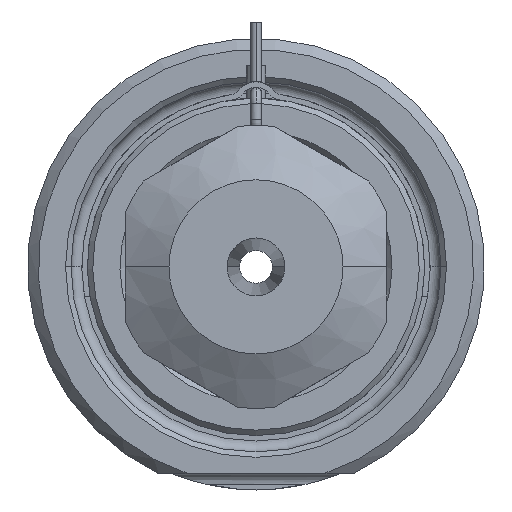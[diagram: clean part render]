
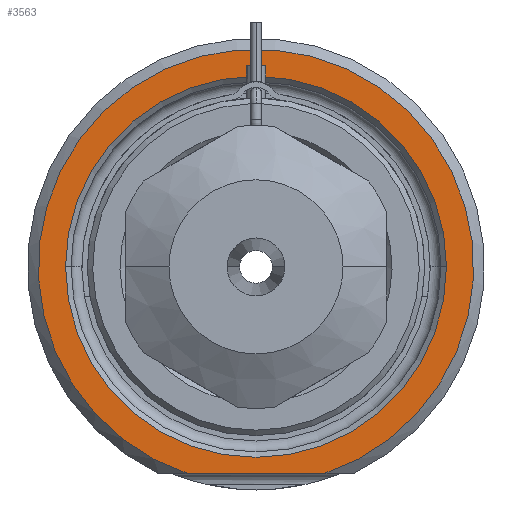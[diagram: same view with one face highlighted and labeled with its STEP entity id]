
A CAD part, front view. The second image highlights one B-rep face of the part: STEP entity #3563.
In plain terms, the highlighted planar face has unit normal (0, -1, 0).
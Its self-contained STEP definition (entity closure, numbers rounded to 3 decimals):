
#708=DIRECTION('',(1.,0.,0.));
#709=VECTOR('',#708,12.49);
#710=CARTESIAN_POINT('',(-6.245,0.,-19.));
#711=LINE('',#710,#709);
#712=CARTESIAN_POINT('',(0.,0.,0.));
#713=DIRECTION('',(0.,1.,0.));
#714=DIRECTION('',(-1.,0.,0.));
#715=AXIS2_PLACEMENT_3D('',#712,#713,#714);
#717=CARTESIAN_POINT('',(0.,0.,0.));
#718=DIRECTION('',(0.,1.,0.));
#719=DIRECTION('',(1.,0.,0.));
#720=AXIS2_PLACEMENT_3D('',#717,#718,#719);
#826=CARTESIAN_POINT('',(0.,0.,0.));
#827=DIRECTION('',(0.,-1.,0.));
#828=DIRECTION('',(0.312,0.,-0.95));
#829=AXIS2_PLACEMENT_3D('',#826,#827,#828);
#2392=CARTESIAN_POINT('',(-17.5,0.,0.));
#2393=CARTESIAN_POINT('',(17.5,0.,0.));
#2394=VERTEX_POINT('',#2392);
#2395=VERTEX_POINT('',#2393);
#2450=CARTESIAN_POINT('',(-6.245,0.,-19.));
#2451=CARTESIAN_POINT('',(6.245,0.,-19.));
#2452=VERTEX_POINT('',#2450);
#2453=VERTEX_POINT('',#2451);
#3547=CARTESIAN_POINT('',(0.,0.,0.));
#3548=DIRECTION('',(0.,-1.,0.));
#3549=DIRECTION('',(1.,0.,0.));
#3550=AXIS2_PLACEMENT_3D('',#3547,#3548,#3549);
#3551=PLANE('',#3550);
#3553=ORIENTED_EDGE('',*,*,#3552,.F.);
#3555=ORIENTED_EDGE('',*,*,#3554,.F.);
#3556=EDGE_LOOP('',(#3553,#3555));
#3557=FACE_OUTER_BOUND('',#3556,.F.);
#3558=ORIENTED_EDGE('',*,*,#3537,.F.);
#3560=ORIENTED_EDGE('',*,*,#3559,.F.);
#3561=EDGE_LOOP('',(#3558,#3560));
#3562=FACE_BOUND('',#3561,.F.);
#3563=ADVANCED_FACE('',(#3557,#3562),#3551,.T.);
#716=CIRCLE('',#715,17.5);
#721=CIRCLE('',#720,17.5);
#830=CIRCLE('',#829,20.);
#3537=EDGE_CURVE('',#2394,#2395,#716,.T.);
#3552=EDGE_CURVE('',#2452,#2453,#711,.T.);
#3554=EDGE_CURVE('',#2453,#2452,#830,.T.);
#3559=EDGE_CURVE('',#2395,#2394,#721,.T.);
